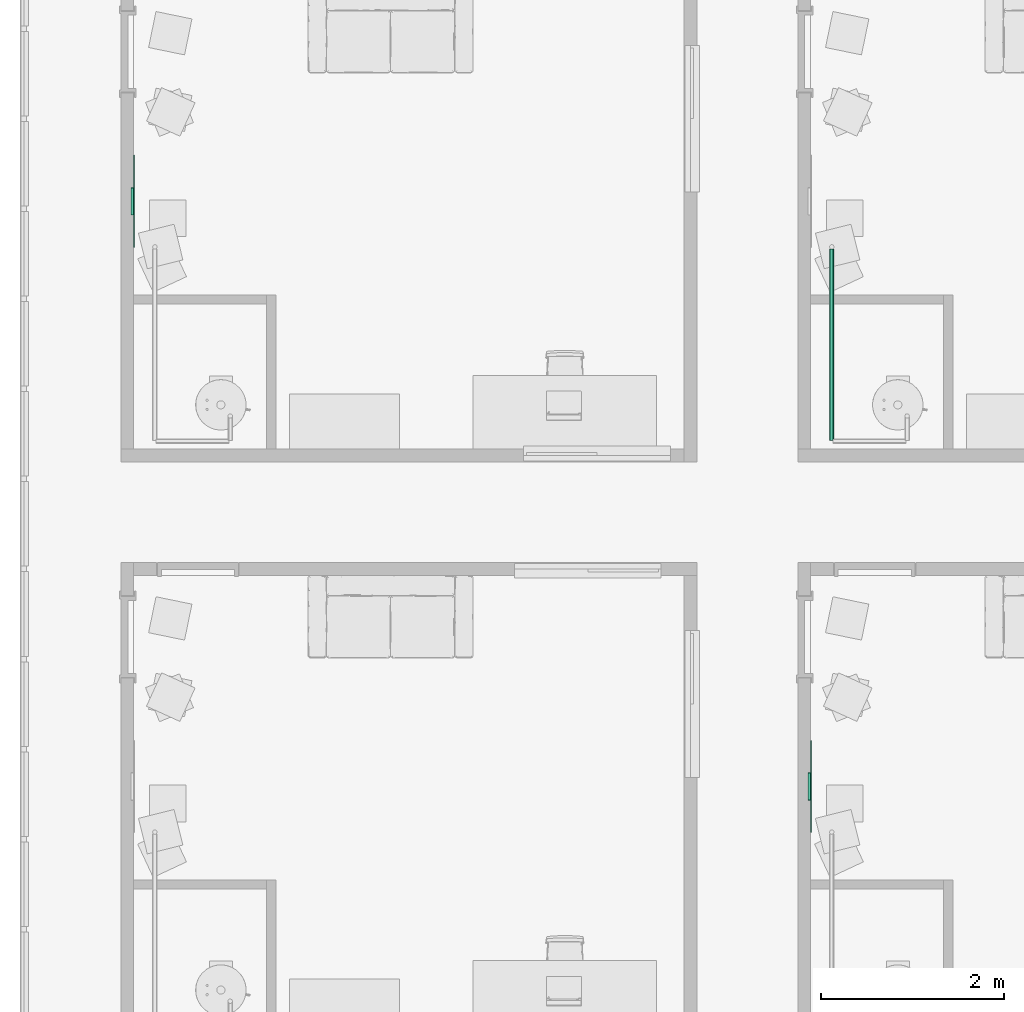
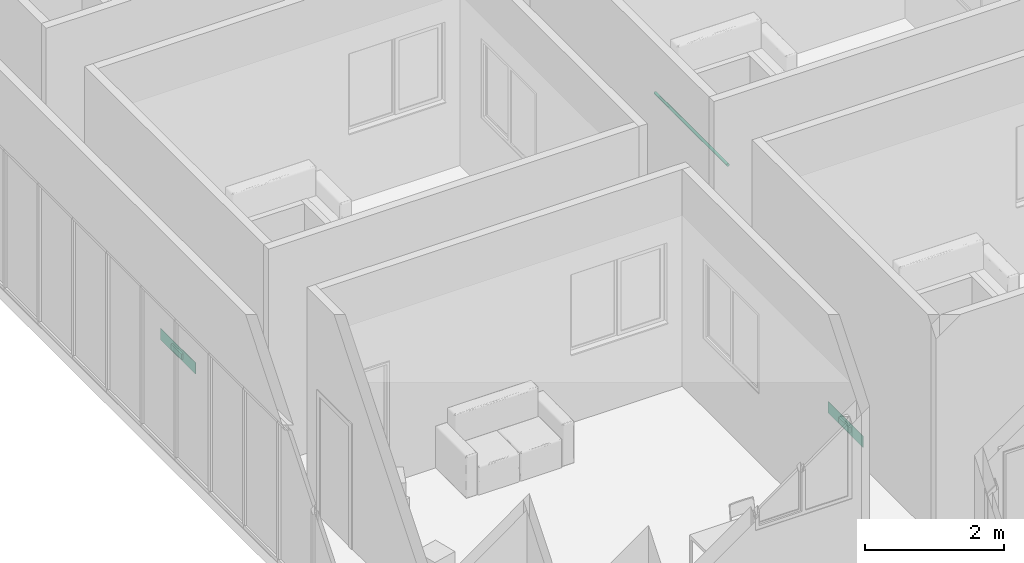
# One storey, part 16 of 69: 2 air terminals, 1 pipe segment.
"""IFC4 building model written with IfcOpenShell, lengths in centimetres."""

from ifc_helpers import new_model, entity, si_unit, converted_unit, derived_unit, direction, frame, origin, place, context, subcontext, project, spatial, arc, indexed_curve, outline, extrude, source, transform, mapped, material, constituent, constituent_set, type_object, type_shapes, element, save


model = new_model("IFC4")

# Units and contexts
model_context = context("Model", 3, precision=0.001, world=origin(), true_north=direction((6.123233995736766e-17, 1.0)))
body_context = subcontext(model_context, "Body", "Model", "MODEL_VIEW")
ifc_project = project(units=[si_unit("LENGTHUNIT", "METRE", prefix="CENTI"), si_unit("AREAUNIT", "SQUARE_METRE"), si_unit("VOLUMEUNIT", "CUBIC_METRE"), derived_unit("THERMALTRANSMITTANCEUNIT", [(si_unit("MASSUNIT", "GRAM", prefix="KILO"), 1), (si_unit("THERMODYNAMICTEMPERATUREUNIT", "KELVIN"), -1), (si_unit("TIMEUNIT", "SECOND"), -3)]), converted_unit("PLANEANGLEUNIT", "DEGREE", entity("IfcPlaneAngleMeasure", 0.017453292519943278), si_unit("PLANEANGLEUNIT", "RADIAN"), dimensions=[0, 0, 0, 0, 0, 0, 0]), derived_unit("MASSDENSITYUNIT", [(si_unit("MASSUNIT", "GRAM", prefix="KILO"), 1), (si_unit("LENGTHUNIT", "METRE"), -3)]), derived_unit("VAPORPERMEABILITYUNIT", [(si_unit("LENGTHUNIT", "METRE"), -1), (si_unit("TIMEUNIT", "SECOND"), 1)]), derived_unit("USERDEFINED", [(si_unit("MASSUNIT", "GRAM", prefix="KILO"), 1), (si_unit("TIMEUNIT", "SECOND"), -3), (si_unit("LENGTHUNIT", "METRE"), 3), (si_unit("ELECTRICCURRENTUNIT", "AMPERE"), -2)]), derived_unit("SPECIFICHEATCAPACITYUNIT", [(si_unit("THERMODYNAMICTEMPERATUREUNIT", "KELVIN"), -1), (si_unit("LENGTHUNIT", "METRE"), 2), (si_unit("TIMEUNIT", "SECOND"), -2)]), derived_unit("THERMALCONDUCTANCEUNIT", [(si_unit("MASSUNIT", "GRAM", prefix="KILO"), 1), (si_unit("THERMODYNAMICTEMPERATUREUNIT", "KELVIN"), -1), (si_unit("TIMEUNIT", "SECOND"), -3), (si_unit("LENGTHUNIT", "METRE"), 1)]), si_unit("PRESSUREUNIT", "PASCAL"), derived_unit("MODULUSOFELASTICITYUNIT", [(si_unit("MASSUNIT", "GRAM", prefix="KILO"), 1), (si_unit("LENGTHUNIT", "METRE"), -1), (si_unit("TIMEUNIT", "SECOND"), -2)]), derived_unit("THERMALEXPANSIONCOEFFICIENTUNIT", [(si_unit("THERMODYNAMICTEMPERATUREUNIT", "KELVIN"), -1)])], contexts=[model_context])

# Site, building, storey, space
site_placement = place(None, origin())
site = spatial("IfcSite", under=ifc_project, at=site_placement, Name="Default", CompositionType="ELEMENT")
building_placement = place(site_placement, origin())
building = spatial("IfcBuilding", under=site, at=building_placement, Name="IDS Escape Game Building", CompositionType="ELEMENT")
storey_placement = place(building_placement, origin())
storey = spatial("IfcBuildingStorey", under=building, at=storey_placement, Name="00_Ground Floor", CompositionType="ELEMENT", Elevation=0.0)
space_1_placement = place(storey_placement, origin())
space_1 = spatial("IfcSpace", under=storey, at=space_1_placement, Name="9", CompositionType="ELEMENT", PredefinedType="NOTDEFINED")

# Air terminal
ifc_material_1 = material(Name="TB_LVC_referentievlak_00_gen_BERSnl", Category="BE Default")
ifc_constituent_1 = constituent(ifc_material_1, Name="TB_LVC_referentievlak_00_gen_BERSnl", Category="BE Default", fraction=0.00014157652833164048)
ifc_material_2 = material(Name="ARC_FME.h2_staal_00_gen_BERSnl", Category="h - metaal")
ifc_constituent_2 = constituent(ifc_material_2, Name="ARC_FME.h2_staal_00_gen_BERSnl", Category="h - metaal", fraction=0.9998584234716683)
ifc_constituent_set_1 = constituent_set(constituents=[ifc_constituent_1, ifc_constituent_2])
ifc_constituent_3 = constituent(ifc_material_1, Name="BE Referentievlak", Category="BE Default", fraction=0.00014157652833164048)
ifc_constituent_4 = constituent(ifc_material_2, Name="Terminals", Category="h - metaal", fraction=0.9998584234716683)
ifc_constituent_set_2 = constituent_set(constituents=[ifc_constituent_3, ifc_constituent_4])
air_terminal_type = type_object("IfcAirTerminalType", Name="TB_57_AIR_FB_aanzuigrooster - 1 rechthoekige aansluiting - calculated flow_gen_BERSnl:Air Terminal - Exhaust", PredefinedType="GRILLE", material=ifc_constituent_set_2)
shared_shape = source(origin(), body_context, "Body", "SweptSolid", [
    extrude(outline(indexed_curve([(-0.5, -2.0290176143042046e-15), (6.8507733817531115e-16, -0.5000000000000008), (0.5, 2.0290176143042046e-15), (-5.361679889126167e-16, 0.49999999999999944)], segments=[arc(1, 2, 3), arc(3, 4, 1)], self_intersect=False)), frame((0.0, 0.0, 0.0), z_axis=(1.7453292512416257e-05, 0.0, 1.0), x_axis=(0.0, 1.0, 0.0)), (0.0, 0.0, 1.0), 0.09999999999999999),
    extrude(outline(indexed_curve([(-14.900000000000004, -4.9), (14.900000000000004, -4.9), (14.900000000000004, 4.9), (-14.900000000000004, 4.9), (-14.900000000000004, -4.9)], self_intersect=False)), frame((-4.886921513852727e-05, 0.0, -2.7999999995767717)), (0.0, 0.0, 1.0), 2.7999999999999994),
    extrude(outline(indexed_curve([(-50.0, -10.0), (50.0, -10.0), (50.0, 10.0), (-50.0, 10.0), (-50.0, -10.0)], self_intersect=False)), frame((0.0, 0.0, 0.0), z_axis=(0.0, 0.0, 1.0), x_axis=(-1.0, 0.0, 0.0)), (0.0, 0.0, 1.0), 0.6999999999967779),
])
type_shapes(air_terminal_type, [shared_shape])
air_terminal_1_placement = place(space_1_placement, frame((745.0, 921.0, 24.0), z_axis=(1.0, 0.0, 0.0), x_axis=(0.0, 1.0, 0.0)))
element("IfcAirTerminal", 1, at=air_terminal_1_placement, inside=space_1, type_object=air_terminal_type, material=ifc_constituent_set_1, Name="TB_57_AIR_FB_aanzuigrooster - 1 rechthoekige aansluiting - calculated flow_gen_BERSnl:Air Terminal - Exhaust", ObjectType="TB_57_AIR_FB_aanzuigrooster - 1 rechthoekige aansluiting - calculated flow_gen_BERSnl:Air Terminal - Exhaust", PredefinedType="GRILLE", context=body_context, shape_type="MappedRepresentation", body=[
    mapped(shared_shape, transform((0.0, 0.0, 0.0), scale=1.0)),
])

# Space
space_2_placement = place(storey_placement, origin())
space_2 = spatial("IfcSpace", under=storey, at=space_2_placement, Name="15", CompositionType="ELEMENT", PredefinedType="NOTDEFINED")

# Air terminal
ifc_constituent_5 = constituent(ifc_material_1, Name="TB_LVC_referentievlak_00_gen_BERSnl", Category="BE Default", fraction=0.00014157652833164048)
ifc_constituent_6 = constituent(ifc_material_2, Name="ARC_FME.h2_staal_00_gen_BERSnl", Category="h - metaal", fraction=0.9998584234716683)
ifc_constituent_set_3 = constituent_set(constituents=[ifc_constituent_5, ifc_constituent_6])
air_terminal_2_placement = place(space_2_placement, frame((7.0, 1559.0, 24.0), z_axis=(1.0, 0.0, 0.0), x_axis=(0.0, 1.0, 0.0)))
element("IfcAirTerminal", 2, at=air_terminal_2_placement, inside=space_2, type_object=air_terminal_type, material=ifc_constituent_set_3, Name="TB_57_AIR_FB_aanzuigrooster - 1 rechthoekige aansluiting - calculated flow_gen_BERSnl:Air Terminal - Exhaust", ObjectType="TB_57_AIR_FB_aanzuigrooster - 1 rechthoekige aansluiting - calculated flow_gen_BERSnl:Air Terminal - Exhaust", PredefinedType="GRILLE", context=body_context, shape_type="MappedRepresentation", body=[
    mapped(shared_shape, transform((0.0, 0.0, 0.0), scale=1.0)),
])

# Pipe segment
pipe_segment_type = type_object("IfcPipeSegmentType", Name="Pipe Types:Piping Aluminum", PredefinedType="NOTDEFINED")
pipe_segment_placement = place(storey_placement, origin())
element("IfcPipeSegment", 3, at=pipe_segment_placement, inside=storey, type_object=pipe_segment_type, Name="Pipe Types:Piping Aluminum", ObjectType="Pipe Types:Piping Aluminum", PredefinedType="NOTDEFINED", context=body_context, shape_type="SweptSolid", body=[
    extrude(outline(indexed_curve([(2.412999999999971, 0.0), (1.7062486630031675, 1.7062486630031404), (0.0, 2.412999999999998), (-1.7062486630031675, 1.7062486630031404), (-2.412999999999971, 2.7071678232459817e-14), (-1.7062486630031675, -1.7062486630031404), (0.0, -2.412999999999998), (1.7062486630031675, -1.7062486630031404)], segments=[arc(1, 2, 3), arc(3, 4, 5), arc(5, 6, 7), arc(7, 8, 1)], self_intersect=False)), frame((768.0467168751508, 1298.3648279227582, 242.0), z_axis=(0.0, 1.0, 0.0), x_axis=(1.0, 0.0, 0.0)), (0.0, 0.0, 1.0), 208.80000000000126),
])

save(model, "model.ifc")
